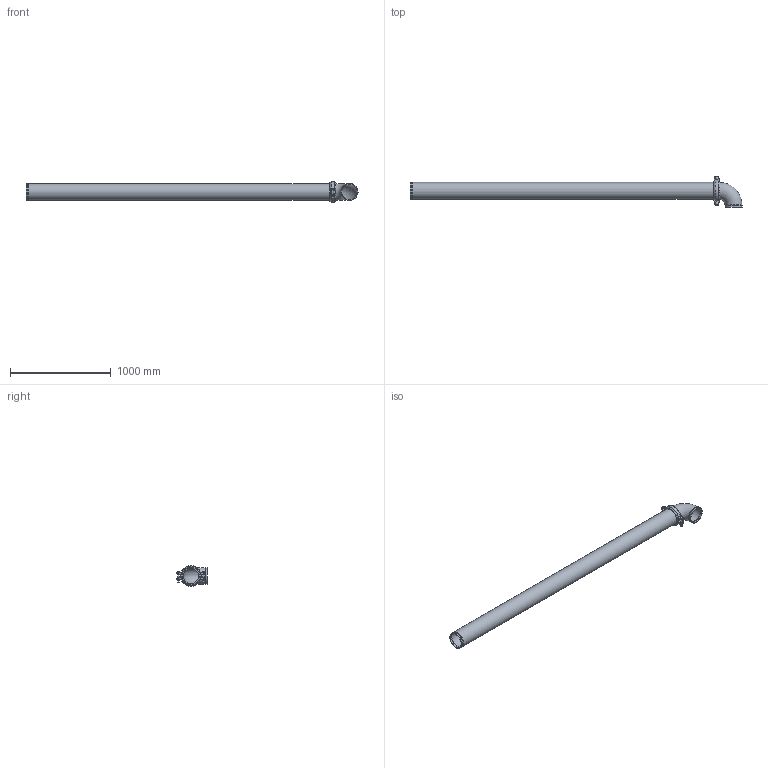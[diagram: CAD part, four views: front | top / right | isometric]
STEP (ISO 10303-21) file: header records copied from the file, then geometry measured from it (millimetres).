
FILE_DESCRIPTION(/* description */ ('VIC LONG RUN FITTING No R13 (OGS)','CAx-IF Rec.Pracs.---Representation and Presentation of Product Manufacturing Information (PMI)---4.0---2014-10-13'),/* implementation_level */ '2;1');
FILE_NAME(/* name */ 'C:\Users\Vjadhav\AppData\Roaming\Autodesk\ApplicationPlugins\Back Up\Victaulic_IPS_Long Run Fittings_No R13 (OGS)\Victaulic_IPS_Long Run Fittings_No R13 (OGS)_6 (150).stp',/* time_stamp */ '2020-10-06T18:26:47+06:00',/* author */ ('Vjadhav'),/* organization */ ('Victaulic'),/* preprocessor_version */ 'ST-DEVELOPER v17.2',/* originating_system */ 'Autodesk Inventor 2019',/* authorisation */ '');
FILE_SCHEMA (('AP242_MANAGED_MODEL_BASED_3D_ENGINEERING_MIM_LF { 1 0 10303 442 1 1 4 }'));
Length unit declared in the file: inch
Products named in the file (4): R13-06.0; 010-06.0; 107N-06.0; Pipe_R13-06.0
Assembly tree (3 placements, depth 2):
  R13-06.0
    010-06.0
    107N-06.0
    Pipe_R13-06.0
Bounding box: 3301.05 x 307.98 x 205.74 mm (x, y, z)
Volume: 12610515.7 mm3; surface area: 3499623.8 mm2
Topology: 3 solids, 3 shells, 149 faces, 371 edges, 248 vertices
Faces by surface type: plane 62, cylinder 57, bspline 16, torus 8, cone 4, sphere 2
Full cylindrical faces by diameter (mm): 15.875 x4, 27.381 x2, 154.051 x3, 155.575 x1, 163.957 x4, 168.275 x7
Entity records: 5572 total; most frequent: CARTESIAN_POINT 1591, DIRECTION 805, ORIENTED_EDGE 742, EDGE_CURVE 371, AXIS2_PLACEMENT_3D 318, VERTEX_POINT 248, EDGE_LOOP 179, LINE 169
